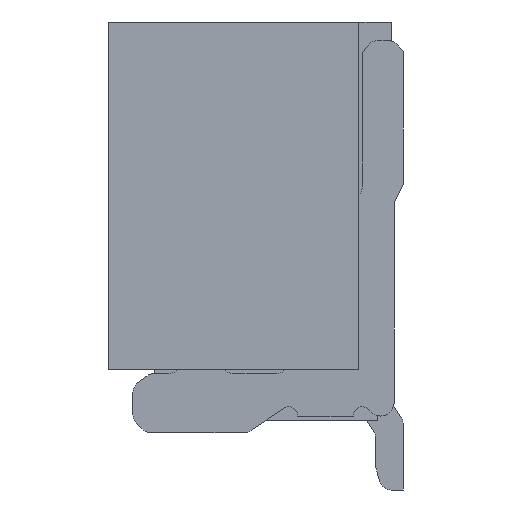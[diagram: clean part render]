
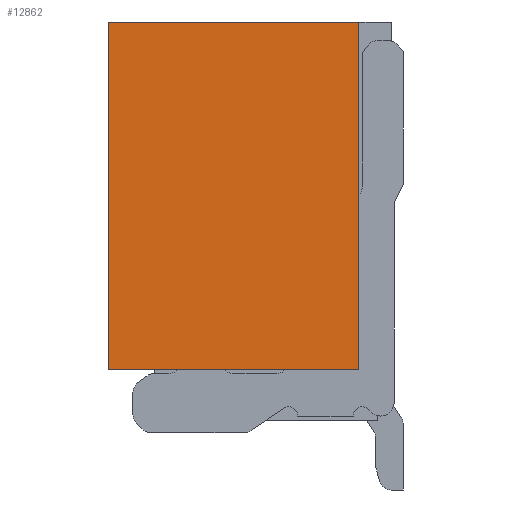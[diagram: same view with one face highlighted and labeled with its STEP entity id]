
A CAD part, left-side view. The second image highlights one B-rep face of the part: STEP entity #12862.
In plain terms, the highlighted planar face has unit normal (-1, 0, 0).
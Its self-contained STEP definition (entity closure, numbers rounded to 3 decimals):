
#867=FACE_OUTER_BOUND('',#1571,.T.);
#1571=EDGE_LOOP('',(#10831,#10832,#10833,#10834));
#2789=LINE('',#20548,#4143);
#2792=LINE('',#20554,#4146);
#2794=LINE('',#20558,#4148);
#2909=LINE('',#20850,#4263);
#4143=VECTOR('',#16963,2.7);
#4146=VECTOR('',#16968,3.75);
#4148=VECTOR('',#16972,2.7);
#4263=VECTOR('',#17253,3.75);
#5721=VERTEX_POINT('',#20520);
#5734=VERTEX_POINT('',#20546);
#5736=VERTEX_POINT('',#20553);
#5737=VERTEX_POINT('',#20557);
#7372=EDGE_CURVE('',#5721,#5734,#2789,.T.);
#7375=EDGE_CURVE('',#5721,#5736,#2792,.T.);
#7377=EDGE_CURVE('',#5736,#5737,#2794,.T.);
#7526=EDGE_CURVE('',#5737,#5734,#2909,.T.);
#10831=ORIENTED_EDGE('',*,*,#7526,.F.);
#10832=ORIENTED_EDGE('',*,*,#7377,.F.);
#10833=ORIENTED_EDGE('',*,*,#7375,.F.);
#10834=ORIENTED_EDGE('',*,*,#7372,.T.);
#11544=PLANE('',#13938);
#12862=ADVANCED_FACE('',(#867),#11544,.T.);
#13938=AXIS2_PLACEMENT_3D('',#20851,#17254,#17255);
#16963=DIRECTION('',(0.,-1.,0.));
#16968=DIRECTION('',(0.,0.,1.));
#16972=DIRECTION('',(0.,-1.,0.));
#17253=DIRECTION('',(0.,0.,-1.));
#17254=DIRECTION('center_axis',(-1.,0.,0.));
#17255=DIRECTION('ref_axis',(0.,-1.,0.));
#20520=CARTESIAN_POINT('',(-8.175,1.525,-1.6));
#20546=CARTESIAN_POINT('',(-8.175,-1.175,-1.6));
#20548=CARTESIAN_POINT('',(-8.175,1.525,-1.6));
#20553=CARTESIAN_POINT('',(-8.175,1.525,2.15));
#20554=CARTESIAN_POINT('',(-8.175,1.525,-1.6));
#20557=CARTESIAN_POINT('',(-8.175,-1.175,2.15));
#20558=CARTESIAN_POINT('',(-8.175,1.525,2.15));
#20850=CARTESIAN_POINT('',(-8.175,-1.175,2.15));
#20851=CARTESIAN_POINT('Origin',(-8.175,1.525,-2.15));
